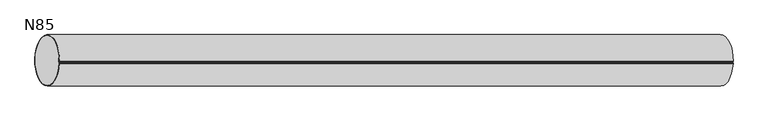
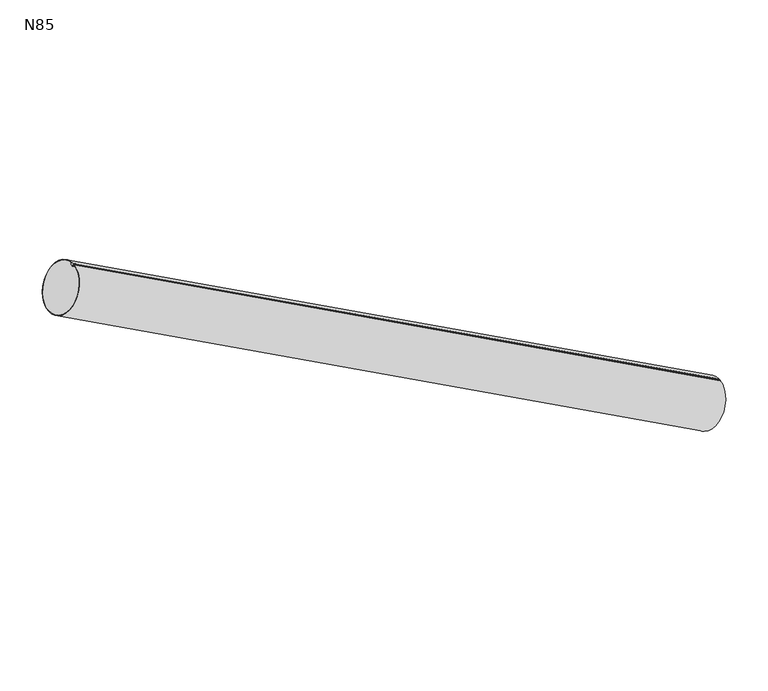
"""IFC4 building model written with IfcOpenShell, lengths in millimetres: proxy geometry, GROVIK_Downpipe_Straight_Sloped : N85."""

from ifc_helpers import new_model, si_unit, frame, origin, place, context, project, spatial, polyline, circle_curve, source, transform, mapped, element, save
from ifc_brep_helpers import plane_surface, cylinder_surface, revolved_surface, advanced_brep


def n85_7e013074(model_context):
    return source(origin(), model_context, "Body", "AdvancedBrep", [
        advanced_brep(
        [(82.743929, -4.7799116, -63.0437596), (82.5896025, -3.8941646, -63.3298794), (81.7352958, -2.8, -64.9137559), (82.8593683, -1.5, -62.8297361), (82.2726909, -4.6586072, -63.9174306), (82.36729, 2.286461, -63.7420447), (80.880792, 2.2, -66.497998), (80.880792, -1.4, -66.497998), (81.4979336, -3.6663266, -65.3538232), (1194.3516241, -4.7799116, -662.6194635), (1194.4670635, -1.5, -662.40544), (1193.342991, -2.8, -664.4894598), (1194.1972977, -3.8941646, -662.9055832), (1193.880386, -4.6586072, -663.4931344), (1193.1056288, -3.6663266, -664.929527), (1192.4884871, -1.4, -666.0737019), (1192.4884871, 2.2, -666.0737019), (1193.9726525, 2.2861899, -663.3220733)],
        [
            (0, 1, circle_curve(frame((82.2471356, -4.6614631, -63.9648099), z_axis=(-0.880134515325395, 0.0, 0.47472437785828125), x_axis=(0.0, -1.0, 0.0)), 1.0531701)),
            (1, 2),
            (2, 3, circle_curve(frame((82.1102776, -1.4323114, -64.2185433), z_axis=(-0.880134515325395, 0.0, 0.47472437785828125), x_axis=(0.0, -1.0, 0.0)), 1.5793999)),
            (3, 0, circle_curve(frame((62.6961524, 0.0, -100.2121481), z_axis=(-0.880134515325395, 0.0, 0.47472437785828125), x_axis=(0.0, -1.0, 0.0)), 42.5)),
            (4, 5, circle_curve(frame((62.6961524, 0.0, -100.2121481), z_axis=(0.880134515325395, 0.0, -0.47472437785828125), x_axis=(0.0, -1.0, 0.0)), 41.5)),
            (5, 6, circle_curve(frame((81.6234386, 2.2, -65.1211381), z_axis=(-0.880134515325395, 0.0, 0.47472437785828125), x_axis=(0.0, -1.0, 0.0)), 1.5643744)),
            (6, 7),
            (7, 8, circle_curve(frame((82.1654196, -1.3537816, -64.1163105), z_axis=(-0.880134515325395, 0.0, 0.47472437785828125), x_axis=(0.0, -1.0, 0.0)), 2.7064441)),
            (8, 4),
            (9, 10, circle_curve(frame((1174.3038476, 0.0, -699.7878519), z_axis=(0.880134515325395, 0.0, -0.47472437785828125), x_axis=(0.0, -1.0, 0.0)), 42.5)),
            (10, 11, circle_curve(frame((1193.7179728, -1.4323114, -663.7942471), z_axis=(0.880134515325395, 0.0, -0.47472437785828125), x_axis=(0.0, -1.0, 0.0)), 1.5793999)),
            (11, 12),
            (12, 9, circle_curve(frame((1193.8548307, -4.6614631, -663.5405137), z_axis=(0.880134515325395, 0.0, -0.47472437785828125), x_axis=(0.0, -1.0, 0.0)), 1.0531701)),
            (13, 14),
            (14, 15, circle_curve(frame((1193.7731147, -1.3537816, -663.6920144), z_axis=(0.880134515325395, 0.0, -0.47472437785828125), x_axis=(0.0, -1.0, 0.0)), 2.7064441)),
            (15, 16),
            (16, 17, circle_curve(frame((1193.2311338, 2.2, -664.6968419), z_axis=(0.880134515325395, 0.0, -0.47472437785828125), x_axis=(0.0, -1.0, 0.0)), 1.5643744)),
            (17, 13, circle_curve(frame((1174.3038476, 0.0, -699.7878519), z_axis=(-0.880134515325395, 0.0, 0.47472437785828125), x_axis=(0.0, -1.0, 0.0)), 41.5)),
            (4, 13),
            (17, 5),
            (16, 6),
            (15, 7),
            (14, 8),
            (0, 9),
            (12, 1),
            (11, 2),
            (10, 3),
        ],
        [
            plane_surface(frame((62.6961524, 0.0, -100.2121481), z_axis=(-0.880134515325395, 0.0, 0.47472437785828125), x_axis=(0.0, -1.0, 0.0))),
            plane_surface(frame((1174.3038476, 0.0, -699.7878519), z_axis=(0.880134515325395, 0.0, -0.47472437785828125), x_axis=(0.0, -1.0, 0.0))),
            revolved_surface(polyline([(1174.303847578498, -41.5, -699.7878519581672), (62.6961524, -41.5, -100.2121481)]), (62.6961524, 0.0, -100.2121481), (0.880134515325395, 0.0, -0.47472437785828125)),
            cylinder_surface(frame((81.6234386, 2.2, -65.1211381), z_axis=(-0.880134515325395, 0.0, 0.47472437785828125), x_axis=(0.0, -1.0, 0.0)), 1.5643744),
            plane_surface(frame((80.880792, 2.2, -66.497998), z_axis=(-0.47472437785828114, 0.0, -0.8801345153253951), x_axis=(0.8801345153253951, 0.0, -0.47472437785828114))),
            cylinder_surface(frame((82.1654196, -1.3537816, -64.1163105), z_axis=(-0.880134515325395, 0.0, 0.47472437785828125), x_axis=(0.0, -1.0, 0.0)), 2.7064441),
            plane_surface(frame((81.4979336, -3.6663266, -65.3538232), z_axis=(-0.24662838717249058, -0.8544588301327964, -0.45724670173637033), x_axis=(0.880134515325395, 0.0, -0.4747243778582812))),
            cylinder_surface(frame((82.2471356, -4.6614631, -63.9648099), z_axis=(-0.880134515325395, 0.0, 0.47472437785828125), x_axis=(0.0, -1.0, 0.0)), 1.0531701),
            plane_surface(frame((82.5896025, -3.8941646, -63.3298794), z_axis=(0.2466283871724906, 0.8544588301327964, 0.45724670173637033), x_axis=(0.880134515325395, 0.0, -0.47472437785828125))),
            cylinder_surface(frame((82.1102776, -1.4323114, -64.2185433), z_axis=(-0.880134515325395, 0.0, 0.47472437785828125), x_axis=(0.0, -1.0, 0.0)), 1.5793999),
            cylinder_surface(frame((62.6961524, 0.0, -100.2121481), z_axis=(-0.880134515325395, 0.0, 0.47472437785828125), x_axis=(0.0, -1.0, 0.0)), 42.5),
        ],
        [
            (0, [[1, 2, 3, 4], [5, 6, 7, 8, 9]]),
            (1, [[10, 11, 12, 13], [14, 15, 16, 17, 18]]),
            (2, [[-5, 19, -18, 20]]),
            (3, [[-6, -20, -17, 21]]),
            (4, [[-7, -21, -16, 22]]),
            (5, [[-8, -22, -15, 23]]),
            (6, [[-9, -23, -14, -19]]),
            (7, [[-1, 24, -13, 25]]),
            (8, [[-2, -25, -12, 26]]),
            (9, [[-3, -26, -11, 27]]),
            (10, [[-4, -27, -10, -24]]),
        ],
    ),
    ])


if __name__ == "__main__":
    model = new_model("IFC4")
    model_context = context("Model", 3, world=origin())
    ifc_project = project(units=[si_unit("LENGTHUNIT", "METRE", prefix="MILLI")], contexts=[model_context])
    site = spatial("IfcSite", under=ifc_project)
    building = spatial("IfcBuilding", under=site)
    placement = place(None, origin())
    n85_shape = n85_7e013074(model_context)
    element("IfcBuildingElementProxy", 1, Name="GROVIK_Downpipe_Straight_Sloped : N85", ObjectType="GROVIK_Downpipe_Straight_Sloped : N85", at=placement, inside=building, context=model_context, shape_type="MappedRepresentation", body=[
        mapped(n85_shape, transform((0.0, 0.0, 0.0), x_axis=(1.0, 0.0, 0.0), y_axis=(0.0, 1.0, 0.0), z_axis=(0.0, 0.0, 1.0))),
    ])
    save(model, "model.ifc")
